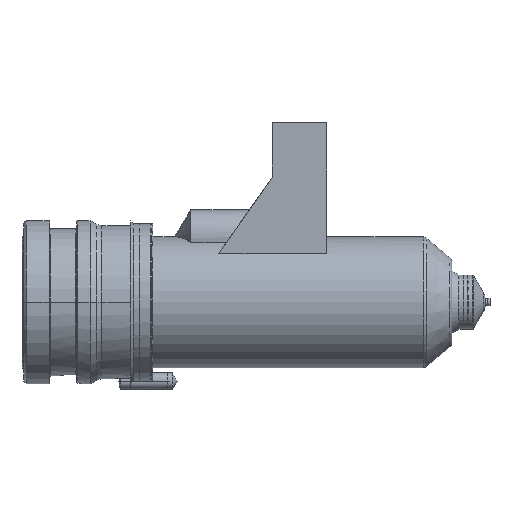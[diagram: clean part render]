
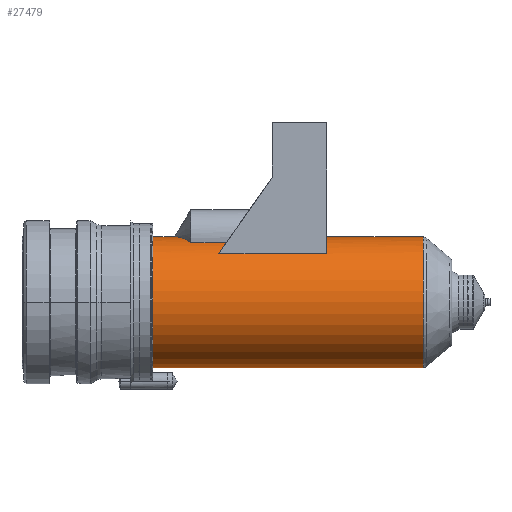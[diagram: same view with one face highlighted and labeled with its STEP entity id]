
A CAD part, left-side view. The second image highlights one B-rep face of the part: STEP entity #27479.
In plain terms, the highlighted cylindrical face has radius 12 mm (diameter 24 mm), a partial arc.
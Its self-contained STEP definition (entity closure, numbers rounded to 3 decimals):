
#26580=DIRECTION('',(0.,-1.,0.));
#26581=VECTOR('',#26580,19.842);
#26582=CARTESIAN_POINT('',(-8.,-36.158,8.944));
#26583=LINE('',#26582,#26581);
#26587=CARTESIAN_POINT('',(-4.89,-37.568,
10.958));
#26588=CARTESIAN_POINT('',(-5.478,-37.385,
10.696));
#26589=CARTESIAN_POINT('',(-6.58,-36.962,
10.092));
#26590=CARTESIAN_POINT('',(-7.548,-36.441,
9.349));
#26591=CARTESIAN_POINT('',(-8.,-36.158,8.944));
#26605=CARTESIAN_POINT('',(0.,-24.,0.));
#26606=DIRECTION('',(0.,1.,0.));
#26607=DIRECTION('',(0.,0.,-1.));
#26608=AXIS2_PLACEMENT_3D('',#26605,#26606,#26607);
#26628=CARTESIAN_POINT('',(0.,-56.,0.));
#26629=DIRECTION('',(0.,-1.,0.));
#26630=DIRECTION('',(0.,0.,1.));
#26631=AXIS2_PLACEMENT_3D('',#26628,#26629,#26630);
#26685=DIRECTION('',(0.,1.,0.));
#26686=VECTOR('',#26685,4.);
#26687=CARTESIAN_POINT('',(0.,-28.,12.));
#26688=LINE('',#26687,#26686);
#26700=DIRECTION('',(0.,1.,0.));
#26701=VECTOR('',#26700,49.736);
#26702=CARTESIAN_POINT('',(0.,-73.736,-12.));
#26703=LINE('',#26702,#26701);
#26707=DIRECTION('',(0.,1.,0.));
#26708=VECTOR('',#26707,17.736);
#26709=CARTESIAN_POINT('',(0.,-73.736,12.));
#26710=LINE('',#26709,#26708);
#26721=CARTESIAN_POINT('',(-4.89,-37.568,
10.958));
#26750=DIRECTION('',(0.,-1.,0.));
#26751=VECTOR('',#26750,6.564);
#26752=CARTESIAN_POINT('',(-4.89,-31.004,
10.958));
#26753=LINE('',#26752,#26751);
#26766=CARTESIAN_POINT('',(0.,-28.,12.));
#26779=CARTESIAN_POINT('',(0.,-28.,12.));
#26780=CARTESIAN_POINT('',(-0.24,-28.144,12.));
#26781=CARTESIAN_POINT('',(-0.72,-28.433,
11.986));
#26782=CARTESIAN_POINT('',(-1.438,-28.865,
11.921));
#26783=CARTESIAN_POINT('',(-2.151,-29.297,
11.813));
#26784=CARTESIAN_POINT('',(-2.855,-29.727,
11.663));
#26785=CARTESIAN_POINT('',(-3.549,-30.155,
11.471));
#26786=CARTESIAN_POINT('',(-4.229,-30.582,
11.238));
#26787=CARTESIAN_POINT('',(-4.672,-30.864,
11.056));
#26788=CARTESIAN_POINT('',(-4.89,-31.004,
10.958));
#26997=CARTESIAN_POINT('',(0.,-73.736,0.));
#26998=DIRECTION('',(0.,-1.,0.));
#26999=DIRECTION('',(0.,0.,1.));
#27000=AXIS2_PLACEMENT_3D('',#26997,#26998,#26999);
#27339=CARTESIAN_POINT('',(-8.,-36.158,8.944));
#27340=VERTEX_POINT('',#27339);
#27341=CARTESIAN_POINT('',(-8.,-56.,8.944));
#27342=VERTEX_POINT('',#27341);
#27347=VERTEX_POINT('',#26721);
#27349=CARTESIAN_POINT('',(-4.89,-31.004,
10.958));
#27351=VERTEX_POINT('',#27349);
#27353=CARTESIAN_POINT('',(0.,-73.736,-12.));
#27354=CARTESIAN_POINT('',(0.,-24.,-12.));
#27355=VERTEX_POINT('',#27353);
#27356=VERTEX_POINT('',#27354);
#27357=CARTESIAN_POINT('',(0.,-24.,12.));
#27358=VERTEX_POINT('',#27357);
#27359=CARTESIAN_POINT('',(0.,-73.736,12.));
#27361=VERTEX_POINT('',#27359);
#27414=CARTESIAN_POINT('',(0.,-56.,12.));
#27415=VERTEX_POINT('',#27414);
#27416=VERTEX_POINT('',#26766);
#27454=CARTESIAN_POINT('',(0.,-16.7,0.));
#27455=DIRECTION('',(0.,-1.,0.));
#27456=DIRECTION('',(0.,0.,1.));
#27457=AXIS2_PLACEMENT_3D('',#27454,#27455,#27456);
#27458=CYLINDRICAL_SURFACE('',#27457,12.);
#27459=ORIENTED_EDGE('',*,*,#27430,.T.);
#27461=ORIENTED_EDGE('',*,*,#27460,.F.);
#27463=ORIENTED_EDGE('',*,*,#27462,.F.);
#27465=ORIENTED_EDGE('',*,*,#27464,.T.);
#27467=ORIENTED_EDGE('',*,*,#27466,.T.);
#27469=ORIENTED_EDGE('',*,*,#27468,.T.);
#27471=ORIENTED_EDGE('',*,*,#27470,.F.);
#27473=ORIENTED_EDGE('',*,*,#27472,.T.);
#27475=ORIENTED_EDGE('',*,*,#27474,.T.);
#27476=ORIENTED_EDGE('',*,*,#27441,.T.);
#27477=EDGE_LOOP('',(#27459,#27461,#27463,#27465,#27467,#27469,#27471,#27473,
#27475,#27476));
#27478=FACE_OUTER_BOUND('',#27477,.F.);
#27479=ADVANCED_FACE('',(#27478),#27458,.T.);
#26592=B_SPLINE_CURVE_WITH_KNOTS('',3,(#26587,#26588,#26589,#26590,#26591),
.UNSPECIFIED.,.F.,.F.,(4,1,4),(0.,0.5,1.),.UNSPECIFIED.);
#26609=CIRCLE('',#26608,12.);
#26632=CIRCLE('',#26631,12.);
#26789=B_SPLINE_CURVE_WITH_KNOTS('',3,(#26779,#26780,#26781,#26782,#26783,
#26784,#26785,#26786,#26787,#26788),.UNSPECIFIED.,.F.,.F.,(4,1,1,1,1,1,1,4),(
0.,0.143,0.286,0.429,0.571,
0.714,0.857,1.),.UNSPECIFIED.);
#27001=CIRCLE('',#27000,12.);
#27430=EDGE_CURVE('',#27340,#27342,#26583,.T.);
#27441=EDGE_CURVE('',#27347,#27340,#26592,.T.);
#27460=EDGE_CURVE('',#27415,#27342,#26632,.T.);
#27462=EDGE_CURVE('',#27361,#27415,#26710,.T.);
#27464=EDGE_CURVE('',#27361,#27355,#27001,.T.);
#27466=EDGE_CURVE('',#27355,#27356,#26703,.T.);
#27468=EDGE_CURVE('',#27356,#27358,#26609,.T.);
#27470=EDGE_CURVE('',#27416,#27358,#26688,.T.);
#27472=EDGE_CURVE('',#27416,#27351,#26789,.T.);
#27474=EDGE_CURVE('',#27351,#27347,#26753,.T.);
